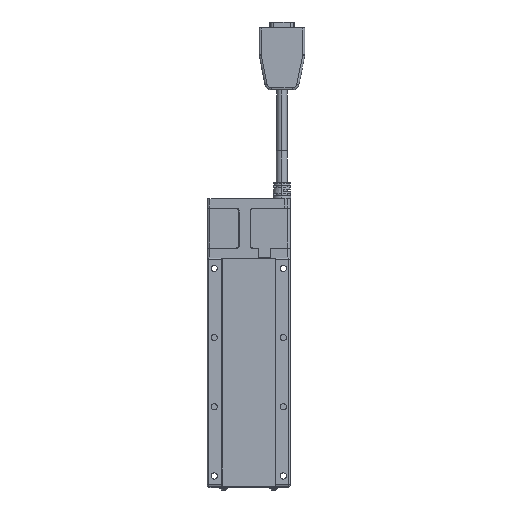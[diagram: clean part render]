
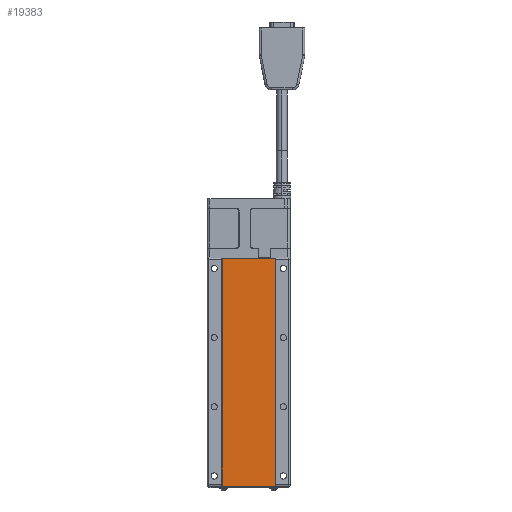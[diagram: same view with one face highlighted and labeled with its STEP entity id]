
A CAD part, front view. The second image highlights one B-rep face of the part: STEP entity #19383.
In plain terms, the highlighted planar face has unit normal (0, -1, 0).
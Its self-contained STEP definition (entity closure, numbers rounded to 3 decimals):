
#236 = CARTESIAN_POINT ( 'NONE',  ( 19.3, 0.8, 0.2 ) ) ;
#2394 = CARTESIAN_POINT ( 'NONE',  ( -19.3, 0.8, 164.8 ) ) ;
#5231 = VERTEX_POINT ( 'NONE', #236 ) ;
#6748 = EDGE_LOOP ( 'NONE', ( #93855, #107769, #103112, #110371 ) ) ;
#12994 = EDGE_CURVE ( 'NONE', #34838, #70931, #31935, .T. ) ;
#15847 = DIRECTION ( 'NONE',  ( 0., 0., 1. ) ) ;
#18391 = DIRECTION ( 'NONE',  ( -1., 0., 0. ) ) ;
#18423 = CARTESIAN_POINT ( 'NONE',  ( 19.3, 0.8, 164.8 ) ) ;
#19383 = ADVANCED_FACE ( 'NONE', ( #49305 ), #47360, .F. ) ;
#19759 = VECTOR ( 'NONE', #102194, 1000. ) ;
#28276 = DIRECTION ( 'NONE',  ( 0., 1., 0. ) ) ;
#31935 = LINE ( 'NONE', #112081, #19759 ) ;
#34786 = CARTESIAN_POINT ( 'NONE',  ( -19.3, 0.8, 0.2 ) ) ;
#34838 = VERTEX_POINT ( 'NONE', #58730 ) ;
#38374 = LINE ( 'NONE', #51273, #96338 ) ;
#43471 = CARTESIAN_POINT ( 'NONE',  ( 19.3, 0.8, 0.2 ) ) ;
#45024 = LINE ( 'NONE', #2394, #117049 ) ;
#47360 = PLANE ( 'NONE',  #114812 ) ;
#49305 = FACE_OUTER_BOUND ( 'NONE', #6748, .T. ) ;
#51273 = CARTESIAN_POINT ( 'NONE',  ( -19.3, 0.8, 0.2 ) ) ;
#58730 = CARTESIAN_POINT ( 'NONE',  ( -19.3, 0.8, 164.8 ) ) ;
#69089 = VERTEX_POINT ( 'NONE', #18423 ) ;
#70931 = VERTEX_POINT ( 'NONE', #34786 ) ;
#72969 = EDGE_CURVE ( 'NONE', #5231, #69089, #85512, .T. ) ;
#81087 = VECTOR ( 'NONE', #15847, 1000. ) ;
#85512 = LINE ( 'NONE', #43471, #81087 ) ;
#91360 = DIRECTION ( 'NONE',  ( 1., 0., 0. ) ) ;
#93855 = ORIENTED_EDGE ( 'NONE', *, *, #12994, .T. ) ;
#96338 = VECTOR ( 'NONE', #91360, 1000. ) ;
#96683 = EDGE_CURVE ( 'NONE', #70931, #5231, #38374, .T. ) ;
#102194 = DIRECTION ( 'NONE',  ( 0., 0., -1. ) ) ;
#103112 = ORIENTED_EDGE ( 'NONE', *, *, #72969, .T. ) ;
#107290 = EDGE_CURVE ( 'NONE', #69089, #34838, #45024, .T. ) ;
#107769 = ORIENTED_EDGE ( 'NONE', *, *, #96683, .T. ) ;
#110371 = ORIENTED_EDGE ( 'NONE', *, *, #107290, .T. ) ;
#112081 = CARTESIAN_POINT ( 'NONE',  ( -19.3, 0.8, 0.2 ) ) ;
#112101 = DIRECTION ( 'NONE',  ( -1., 0., 0. ) ) ;
#114812 = AXIS2_PLACEMENT_3D ( 'NONE', #118292, #28276, #18391 ) ;
#117049 = VECTOR ( 'NONE', #112101, 1000. ) ;
#118292 = CARTESIAN_POINT ( 'NONE',  ( -19.3, 0.8, 164.8 ) ) ;
